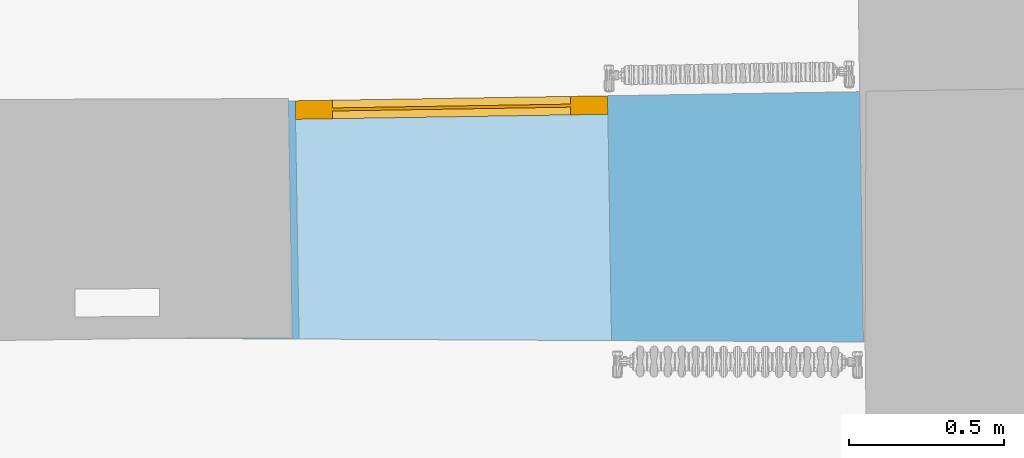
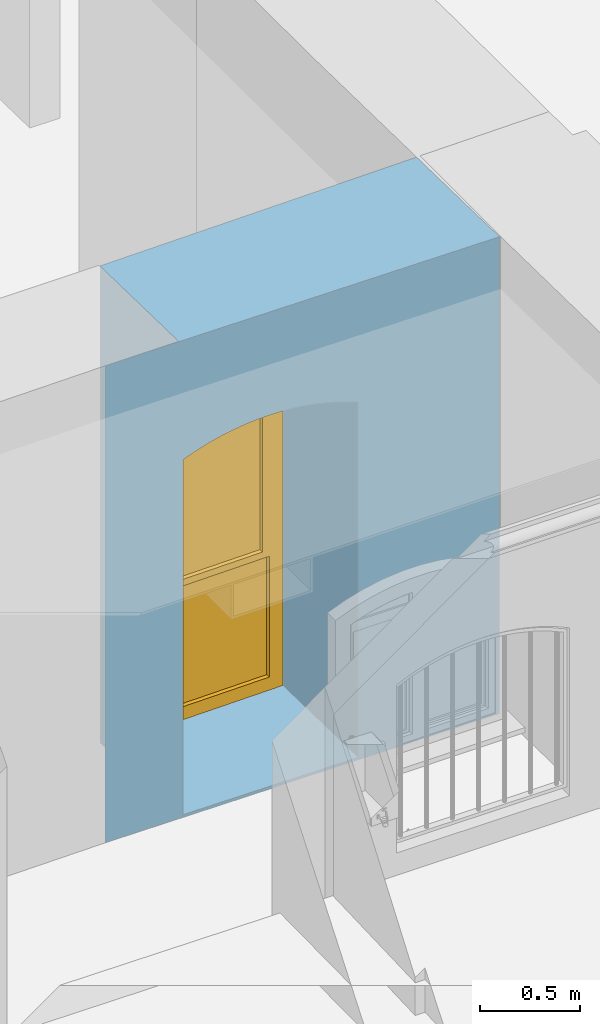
# One storey, part 95 of 133: 1 window, 1 opening, plus 1 element that does not belong to this part.
"""IFC2X3 building model written with IfcOpenShell, lengths in centimetres."""

from ifc_helpers import new_model, entity, si_unit, converted_unit, point, direction, frame, frame_2d, origin, origin_with_axes, place, context, subcontext, project, spatial, polyline, circle_curve, trimmed, segment, composite_curve, outline, extrude, faceted_brep, shape, source, transform, mapped, material, material_list, layer, layer_set, layer_usage, type_object, element, fill, save


model = new_model("IFC2X3")

# Units and contexts
model_context = context("Model", 3, precision=0.0001, world=origin(), true_north=direction((0.225632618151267, 0.974212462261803, 0.0)))
body_context = subcontext(model_context, "Body", "Model", "MODEL_VIEW")
footprint_context = subcontext(model_context, "FootPrint", "Model", "MODEL_VIEW")
profile_context = subcontext(model_context, "Profile", "Model", "MODEL_VIEW")
ifc_project = project(units=[si_unit("LENGTHUNIT", "METRE", prefix="CENTI"), si_unit("AREAUNIT", "SQUARE_METRE", prefix="CENTI"), si_unit("VOLUMEUNIT", "CUBIC_METRE", prefix="CENTI"), converted_unit("PLANEANGLEUNIT", "DEGREE", entity("IfcRatioMeasure", 0.0174532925), si_unit("PLANEANGLEUNIT", "RADIAN"), dimensions=[0, 0, 0, 0, 0, 0, 0])], contexts=[model_context])

# Site, building, storey
site_placement = place(None, origin_with_axes())
site = spatial("IfcSite", under=ifc_project, at=site_placement, Name="Default Site", CompositionType="ELEMENT")
building_placement = place(site_placement, origin_with_axes())
building = spatial("IfcBuilding", under=site, at=building_placement, Name="Default Building", CompositionType="ELEMENT")
storey_placement = place(building_placement, frame((0.0, 0.0, -291.400371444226), z_axis=(0.0, 0.0, 1.0), x_axis=(1.0, 0.0, 0.0)))
storey = spatial("IfcBuildingStorey", under=building, at=storey_placement, Name="Rez-de-Jardin", CompositionType="ELEMENT", Elevation=-291.400371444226)

# Wall, opening, window
ifc_material_1 = material(Name="<aucun>")
ifc_layer = layer(ifc_material_1, 77.0)
ifc_layer_set = layer_set([ifc_layer], Name="default")
ifc_layer_usage = layer_usage(ifc_layer_set, "AXIS2", "POSITIVE", -38.5)
wall_type = type_object("IfcWallType", Name="default 770", PredefinedType="NOTDEFINED", material=ifc_layer_set)
wall_placement = place(storey_placement, frame((47.5231606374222, -712.71886798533, -1.94511073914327e-11), z_axis=(0.0, 0.0, 1.0), x_axis=(0.999869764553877, 0.0161385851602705, 0.0)))
wall = element("IfcWallStandardCase", 1, at=wall_placement, inside=storey, type_object=wall_type, material=ifc_layer_usage, Name="Enveloppe 68570", context=body_context, shape_type="SweptSolid", body=[
    extrude(outline(polyline([(-42.5850705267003, -37.5957474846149), (184.643338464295, -42.4207215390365), (184.738052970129, 38.5000000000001), (1.58761892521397e-12, 38.5000000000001), (1.55986334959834e-12, -38.1393536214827), (-42.5850705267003, -37.5957474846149)])), frame((0.0, 0.0, 8.88178419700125e-14), z_axis=(0.0, 0.0, 1.0), x_axis=(1.0, 0.0, 0.0)), (0.0, 0.0, 1.0), 291.413221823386),
])
opening_placement = place(wall_placement, frame((2.19796612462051, 0.0, 1.60307776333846), z_axis=(0.0, 0.0, 1.0), x_axis=(-1.0, -3.81639164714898e-17, 0.0)))
cartesian_point_1 = entity("IfcCartesianPoint", [-1.11022302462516e-14, -8.88178419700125e-14, 217.0])
cartesian_point_2 = entity("IfcCartesianPoint", [-101.0, -8.88178419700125e-14, 217.0])
cartesian_point_3 = entity("IfcCartesianPoint", [-101.0, -38.5000000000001])
opening = element("IfcOpeningElement", 2, at=opening_placement, cuts=wall, Name="4294966478_12", ObjectType="Opening", shapes=[
    shape(body_context, "Body", "SweptSolid", [extrude(outline(composite_curve([segment(polyline([(1.11022302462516e-14, 217.0), (0.0, 4.44089209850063e-14), (101.0, 4.44089209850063e-14), (101.0, 217.0)]), True, "CONTINUOUS"), segment(trimmed(circle_curve(frame_2d((50.5, 94.4875000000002), x_axis=(1.0, 0.0)), 132.5125), [point((101.0, 217.0))], [point((1.11022302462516e-14, 217.0))], True, "CARTESIAN"), True, "CONTINUOUS")], self_intersect=False)), frame((0.0, -48.5000000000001, 0.0), z_axis=(0.0, 1.0, 0.0), x_axis=(-1.0, 0.0, 0.0)), (0.0, 0.0, 1.0), 100.922167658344)]),
    shape(profile_context, "Profile", "GeometricCurveSet", [entity("IfcGeometricCurveSet", [entity("IfcCompositeCurve", [entity("IfcCompositeCurveSegment", "CONTINUOUS", True, entity("IfcPolyline", [cartesian_point_1, entity("IfcCartesianPoint", [0.0, -8.88178419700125e-14, 4.44089209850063e-14]), entity("IfcCartesianPoint", [-101.0, -8.88178419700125e-14, 4.44089209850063e-14]), cartesian_point_2])), entity("IfcCompositeCurveSegment", "CONTINUOUS", True, entity("IfcTrimmedCurve", entity("IfcCircle", entity("IfcAxis2Placement3D", entity("IfcCartesianPoint", [-50.5, -8.88178419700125e-14, 94.4875000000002]), entity("IfcDirection", [0.0, 1.0, 0.0]), entity("IfcDirection", [1.0, 0.0, 0.0])), 132.5125), [cartesian_point_2], [cartesian_point_1], True, "CARTESIAN"))], False)])]),
    shape(footprint_context, "FootPrint", "GeometricCurveSet", [entity("IfcGeometricCurveSet", [entity("IfcPolyline", [cartesian_point_3, entity("IfcCartesianPoint", [-5.55111512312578e-15, -38.5000000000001]), entity("IfcCartesianPoint", [-1.11022302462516e-14, 38.5466716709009]), entity("IfcCartesianPoint", [-101.0, 40.6913083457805]), cartesian_point_3])])]),
])
ifc_material_2 = material(Name="Transparent")
ifc_material_3 = material(Name="Blanc trafic")
ifc_material_4 = material(Name="Rouge brillant")
ifc_material_list = material_list([ifc_material_2, ifc_material_3, ifc_material_4])
window_style = type_object("IfcWindowStyle", Name="Imposte fixe+1 imposte bas + arc  haut", ConstructionType="NOTDEFINED", OperationType="NOTDEFINED", ParameterTakesPrecedence=False, Sizeable=False, material=ifc_material_list)
shared_shape = source(origin_with_axes(), body_context, "Body", "Brep", [
    faceted_brep([(-46.5000003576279, 214.178395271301, -2.99999993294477), (-46.5000003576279, 214.178395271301, 0.0), (-46.5000003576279, 3.99999991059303, 0.0), (-46.5000003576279, 3.99999991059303, -2.99999993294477), (-50.4999995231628, 217.000007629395, 0.0), (-50.4999995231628, 0.0, 0.0), (-50.4999995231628, 217.000007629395, -2.99999993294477), (-50.4999995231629, 5.11214587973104e-30, -2.99999993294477), (-50.4999995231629, 5.11214587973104e-30, 0.0), (-50.4999995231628, 0.0, -2.99999993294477), (46.5000003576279, 3.99999991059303, 0.0), (46.5000003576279, 3.99999991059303, -2.99999993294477), (50.4999995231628, 0.0, 0.0), (50.4999995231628, 0.0, -2.99999993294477), (46.5000003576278, 214.178395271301, 0.0), (46.5000003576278, 214.178395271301, -2.99999993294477), (50.4999995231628, 217.000007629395, 0.0), (46.5000003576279, 214.178395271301, 0.0), (50.4999995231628, 217.000007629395, -2.99999993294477), (46.5000003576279, 214.178395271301, -2.99999993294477), (37.1453869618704, 217.509680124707, 0.0), (37.1453869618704, 217.509680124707, -2.99999993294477), (38.3029758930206, 221.343493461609, 0.0), (37.1453851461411, 217.50967502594, 0.0), (38.3029802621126, 221.343505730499, -2.99999993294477), (38.3029802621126, 221.343505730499, 0.0), (37.1453851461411, 217.50967502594, -2.99999993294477), (38.3029758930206, 221.343493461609, -2.99999993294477), (24.9623700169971, 220.547467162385, 0.0), (24.9623700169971, 220.547467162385, -2.99999993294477), (25.7402896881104, 224.475955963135, 0.0), (24.9623686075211, 220.547461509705, 0.0), (25.7402895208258, 224.475955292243, -2.99999993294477), (25.7402895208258, 224.475955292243, 0.0), (24.9623686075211, 220.547461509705, -2.99999993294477), (25.7402896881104, 224.475955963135, -2.99999993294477), (12.5410480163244, 222.381815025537, 0.0), (12.5410480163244, 222.381815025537, -2.99999993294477), (12.9318714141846, 226.367473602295, 0.0), (12.5410467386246, 222.381806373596, 0.0), (12.9318716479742, 226.367475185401, -2.99999993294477), (12.9318716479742, 226.367475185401, 0.0), (12.5410467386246, 222.381806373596, -2.99999993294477), (12.9318714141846, 226.367473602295, -2.99999993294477), (-4.41803589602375e-10, 222.995209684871, 0.0), (-4.41803589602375e-10, 222.995209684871, -2.99999993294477), (2.44249065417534e-13, 226.999998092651, 0.0), (2.27465615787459e-13, 222.995209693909, 0.0), (-2.58547340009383e-07, 226.999992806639, -2.99999993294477), (-2.58547340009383e-07, 226.999992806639, 0.0), (2.27465615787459e-13, 222.995209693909, -2.99999993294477), (2.44249065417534e-13, 226.999998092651, -2.99999993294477), (-12.5410467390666, 222.381806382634, 0.0), (-12.5410467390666, 222.381806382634, -2.99999993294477), (-12.9318714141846, 226.367473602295, 0.0), (-12.5410467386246, 222.381806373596, 0.0), (-12.9318716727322, 226.367478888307, -2.99999993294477), (-12.9318716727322, 226.367478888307, 0.0), (-12.5410467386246, 222.381806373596, -2.99999993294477), (-12.9318714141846, 226.367473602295, -2.99999993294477), (-24.9623673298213, 220.547452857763, 0.0), (-24.9623673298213, 220.547452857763, -2.99999993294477), (-25.7402896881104, 224.475955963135, 0.0), (-24.9623686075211, 220.547461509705, 0.0), (-25.7402894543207, 224.475954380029, -2.99999993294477), (-25.7402894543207, 224.475954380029, 0.0), (-24.9623686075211, 220.547461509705, -2.99999993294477), (-25.7402896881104, 224.475955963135, -2.99999993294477), (-37.145383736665, 217.509669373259, 0.0), (-37.145383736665, 217.509669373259, -2.99999993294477), (-38.3029758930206, 221.343493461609, 0.0), (-37.1453851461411, 217.50967502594, 0.0), (-38.3029760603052, 221.343494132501, -2.99999993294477), (-38.3029760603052, 221.343494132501, 0.0), (-37.1453851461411, 217.50967502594, -2.99999993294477), (-38.3029758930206, 221.343493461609, -2.99999993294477), (-46.4999985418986, 214.178390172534, 0.0), (-46.4999985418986, 214.178390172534, -2.99999993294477), (-50.4999951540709, 216.999995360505, -2.99999993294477), (-50.4999951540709, 216.999995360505, 0.0)], [[[0, 1, 2, 3]], [[1, 4, 5, 2]], [[4, 6, 7, 8]], [[6, 0, 3, 9]], [[3, 2, 10, 11]], [[2, 5, 12, 10]], [[5, 9, 13, 12]], [[9, 3, 11, 13]], [[11, 10, 14, 15]], [[10, 12, 16, 17]], [[12, 13, 18, 16]], [[13, 11, 19, 18]], [[19, 17, 20, 21]], [[17, 16, 22, 23]], [[16, 18, 24, 25]], [[18, 19, 26, 27]], [[26, 23, 28, 29]], [[23, 22, 30, 31]], [[22, 27, 32, 33]], [[27, 26, 34, 35]], [[34, 31, 36, 37]], [[31, 30, 38, 39]], [[30, 35, 40, 41]], [[35, 34, 42, 43]], [[42, 39, 44, 45]], [[39, 38, 46, 47]], [[38, 43, 48, 49]], [[43, 42, 50, 51]], [[50, 47, 52, 53]], [[47, 46, 54, 55]], [[46, 51, 56, 57]], [[51, 50, 58, 59]], [[58, 55, 60, 61]], [[55, 54, 62, 63]], [[54, 59, 64, 65]], [[59, 58, 66, 67]], [[66, 63, 68, 69]], [[63, 62, 70, 71]], [[62, 67, 72, 73]], [[67, 66, 74, 75]], [[74, 71, 76, 77]], [[71, 70, 4, 1]], [[70, 75, 78, 79]], [[75, 74, 0, 6]]]),
    faceted_brep([(-46.5000003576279, 214.178395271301, 0.0), (-46.5000003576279, 214.178395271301, 2.99999993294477), (-46.5000003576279, 3.99999991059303, 2.99999993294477), (-46.5000003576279, 3.99999991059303, 0.0), (-50.4999995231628, 217.000007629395, 2.99999993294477), (-50.4999995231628, 0.0, 2.99999993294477), (-50.4999995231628, 217.000007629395, 0.0), (-50.4999995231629, 5.11214587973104e-30, 0.0), (-50.4999995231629, 5.11214587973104e-30, 2.99999993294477), (-50.4999995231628, 0.0, 0.0), (46.5000003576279, 3.99999991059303, 2.99999993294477), (46.5000003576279, 3.99999991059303, 0.0), (50.4999995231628, 0.0, 2.99999993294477), (50.4999995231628, 0.0, 0.0), (46.5000003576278, 214.178395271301, 2.99999993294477), (46.5000003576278, 214.178395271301, 0.0), (50.4999995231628, 217.000007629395, 2.99999993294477), (46.5000003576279, 214.178395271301, 2.99999993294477), (50.4999995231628, 217.000007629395, 0.0), (46.5000003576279, 214.178395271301, 0.0), (37.1453869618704, 217.509680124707, 2.99999993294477), (37.1453869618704, 217.509680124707, 0.0), (38.3029758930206, 221.343493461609, 2.99999993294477), (37.1453851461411, 217.50967502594, 2.99999993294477), (38.3029802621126, 221.343505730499, 0.0), (38.3029802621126, 221.343505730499, 2.99999993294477), (37.1453851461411, 217.50967502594, 0.0), (38.3029758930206, 221.343493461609, 0.0), (24.9623700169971, 220.547467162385, 2.99999993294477), (24.9623700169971, 220.547467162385, 0.0), (25.7402896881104, 224.475955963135, 2.99999993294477), (24.9623686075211, 220.547461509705, 2.99999993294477), (25.7402895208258, 224.475955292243, 0.0), (25.7402895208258, 224.475955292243, 2.99999993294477), (24.9623686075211, 220.547461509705, 0.0), (25.7402896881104, 224.475955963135, 0.0), (12.5410480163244, 222.381815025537, 2.99999993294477), (12.5410480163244, 222.381815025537, 0.0), (12.9318714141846, 226.367473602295, 2.99999993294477), (12.5410467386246, 222.381806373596, 2.99999993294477), (12.9318716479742, 226.367475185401, 0.0), (12.9318716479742, 226.367475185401, 2.99999993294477), (12.5410467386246, 222.381806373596, 0.0), (12.9318714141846, 226.367473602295, 0.0), (-4.41803589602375e-10, 222.995209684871, 2.99999993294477), (-4.41803589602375e-10, 222.995209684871, 0.0), (2.44249065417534e-13, 226.999998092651, 2.99999993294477), (2.27465615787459e-13, 222.995209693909, 2.99999993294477), (-2.58547340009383e-07, 226.999992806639, 0.0), (-2.58547340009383e-07, 226.999992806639, 2.99999993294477), (2.27465615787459e-13, 222.995209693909, 0.0), (2.44249065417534e-13, 226.999998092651, 0.0), (-12.5410467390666, 222.381806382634, 2.99999993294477), (-12.5410467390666, 222.381806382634, 0.0), (-12.9318714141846, 226.367473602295, 2.99999993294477), (-12.5410467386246, 222.381806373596, 2.99999993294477), (-12.9318716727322, 226.367478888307, 0.0), (-12.9318716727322, 226.367478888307, 2.99999993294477), (-12.5410467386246, 222.381806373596, 0.0), (-12.9318714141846, 226.367473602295, 0.0), (-24.9623673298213, 220.547452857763, 2.99999993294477), (-24.9623673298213, 220.547452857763, 0.0), (-25.7402896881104, 224.475955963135, 2.99999993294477), (-24.9623686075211, 220.547461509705, 2.99999993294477), (-25.7402894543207, 224.475954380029, 0.0), (-25.7402894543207, 224.475954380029, 2.99999993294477), (-24.9623686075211, 220.547461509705, 0.0), (-25.7402896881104, 224.475955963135, 0.0), (-37.145383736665, 217.509669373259, 2.99999993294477), (-37.145383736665, 217.509669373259, 0.0), (-38.3029758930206, 221.343493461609, 2.99999993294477), (-37.1453851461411, 217.50967502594, 2.99999993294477), (-38.3029760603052, 221.343494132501, 0.0), (-38.3029760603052, 221.343494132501, 2.99999993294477), (-37.1453851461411, 217.50967502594, 0.0), (-38.3029758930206, 221.343493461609, 0.0), (-46.4999985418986, 214.178390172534, 2.99999993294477), (-46.4999985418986, 214.178390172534, 0.0), (-50.4999951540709, 216.999995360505, 0.0), (-50.4999951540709, 216.999995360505, 2.99999993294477)], [[[0, 1, 2, 3]], [[1, 4, 5, 2]], [[4, 6, 7, 8]], [[6, 0, 3, 9]], [[3, 2, 10, 11]], [[2, 5, 12, 10]], [[5, 9, 13, 12]], [[9, 3, 11, 13]], [[11, 10, 14, 15]], [[10, 12, 16, 17]], [[12, 13, 18, 16]], [[13, 11, 19, 18]], [[19, 17, 20, 21]], [[17, 16, 22, 23]], [[16, 18, 24, 25]], [[18, 19, 26, 27]], [[26, 23, 28, 29]], [[23, 22, 30, 31]], [[22, 27, 32, 33]], [[27, 26, 34, 35]], [[34, 31, 36, 37]], [[31, 30, 38, 39]], [[30, 35, 40, 41]], [[35, 34, 42, 43]], [[42, 39, 44, 45]], [[39, 38, 46, 47]], [[38, 43, 48, 49]], [[43, 42, 50, 51]], [[50, 47, 52, 53]], [[47, 46, 54, 55]], [[46, 51, 56, 57]], [[51, 50, 58, 59]], [[58, 55, 60, 61]], [[55, 54, 62, 63]], [[54, 59, 64, 65]], [[59, 58, 66, 67]], [[66, 63, 68, 69]], [[63, 62, 70, 71]], [[62, 67, 72, 73]], [[67, 66, 74, 75]], [[74, 71, 76, 77]], [[71, 70, 4, 1]], [[70, 75, 78, 79]], [[75, 74, 0, 6]]]),
    faceted_brep([(-42.5000011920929, 211.416053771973, -2.99999993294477), (-42.5000011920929, 211.416053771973, 2.99999993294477), (-42.5000011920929, 7.99999982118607, 2.99999993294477), (-42.5000011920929, 7.99999982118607, -2.99999993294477), (-46.5000003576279, 214.29238319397, 2.99999993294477), (-46.5000003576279, 3.99999991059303, 2.99999993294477), (-46.5000003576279, 214.29238319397, -2.99999993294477), (-46.5000003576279, 3.99999991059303, -2.99999993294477), (42.5000011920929, 7.99999982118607, 2.99999993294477), (42.5000011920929, 7.99999982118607, -2.99999993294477), (46.5000003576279, 3.99999991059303, 2.99999993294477), (46.5000003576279, 3.99999991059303, -2.99999993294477), (42.5000011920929, 211.416053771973, 2.99999993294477), (42.5000011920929, 211.416053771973, -2.99999993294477), (46.5000003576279, 214.29238319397, 2.99999993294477), (46.5000003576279, 214.29238319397, -2.99999993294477), (34.1302055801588, 214.226489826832, 2.99999993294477), (34.1302055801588, 214.226489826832, -2.99999993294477), (35.2278590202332, 218.077397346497, 2.99999993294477), (34.1302037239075, 214.226484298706, 2.99999993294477), (35.2278531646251, 218.077379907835, -2.99999993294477), (35.2278531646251, 218.077379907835, 2.99999993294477), (34.1302037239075, 214.226484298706, -2.99999993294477), (35.2278590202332, 218.077397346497, -2.99999993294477), (22.9171016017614, 216.868469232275, 2.99999993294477), (22.9171016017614, 216.868469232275, -2.99999993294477), (23.6541345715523, 220.804333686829, 2.99999993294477), (22.9171022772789, 216.868472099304, 2.99999993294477), (23.6541383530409, 220.804349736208, -2.99999993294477), (23.6541383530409, 220.804349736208, 2.99999993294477), (22.9171022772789, 216.868472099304, -2.99999993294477), (23.6541345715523, 220.804333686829, -2.99999993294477), (11.5078114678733, 218.462764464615, 2.99999993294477), (11.5078114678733, 218.462764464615, -2.99999993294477), (11.8779100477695, 222.449898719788, 2.99999993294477), (11.507809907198, 218.462753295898, 2.99999993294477), (11.8779102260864, 222.449899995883, -2.99999993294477), (11.8779102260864, 222.449899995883, 2.99999993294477), (11.507809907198, 218.462753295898, -2.99999993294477), (11.8779100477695, 222.449898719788, -2.99999993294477), (-4.25131216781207e-07, 218.995705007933, 2.99999993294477), (-4.25131216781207e-07, 218.995705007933, -2.99999993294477), (1.27675647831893e-13, 223.000001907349, 2.99999993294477), (1.22124532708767e-13, 218.995714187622, 2.99999993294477), (-5.24665264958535e-07, 222.999990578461, -2.99999993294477), (-5.24665264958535e-07, 222.999990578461, 2.99999993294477), (1.22124532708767e-13, 218.995714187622, -2.99999993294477), (1.27675647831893e-13, 223.000001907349, -2.99999993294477), (-11.5078103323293, 218.462762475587, 2.99999993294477), (-11.5078103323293, 218.462762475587, -2.99999993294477), (-11.8779100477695, 222.449898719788, 2.99999993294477), (-11.507809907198, 218.462753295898, 2.99999993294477), (-11.8779105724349, 222.449910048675, -2.99999993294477), (-11.8779105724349, 222.449910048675, 2.99999993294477), (-11.507809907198, 218.462753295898, -2.99999993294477), (-11.8779100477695, 222.449898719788, -2.99999993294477), (-22.9171007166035, 216.868460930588, 2.99999993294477), (-22.9171007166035, 216.868460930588, -2.99999993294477), (-23.6541345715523, 220.804333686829, 2.99999993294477), (-22.9171022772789, 216.868472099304, 2.99999993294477), (-23.6541343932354, 220.804332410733, -2.99999993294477), (-23.6541343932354, 220.804332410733, 2.99999993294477), (-22.9171022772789, 216.868472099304, -2.99999993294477), (-23.6541345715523, 220.804333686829, -2.99999993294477), (-34.130204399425, 214.226487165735, 2.99999993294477), (-34.130204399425, 214.226487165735, -2.99999993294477), (-35.2278590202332, 218.077397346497, 2.99999993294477), (-34.1302037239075, 214.226484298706, 2.99999993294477), (-35.2278552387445, 218.077381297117, -2.99999993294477), (-35.2278552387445, 218.077381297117, 2.99999993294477), (-34.1302037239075, 214.226484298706, -2.99999993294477), (-35.2278590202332, 218.077397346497, -2.99999993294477), (-42.4999993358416, 211.416048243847, 2.99999993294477), (-42.4999993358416, 211.416048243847, -2.99999993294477), (-46.5000062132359, 214.292400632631, -2.99999993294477), (-46.5000062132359, 214.292400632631, 2.99999993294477)], [[[0, 1, 2, 3]], [[1, 4, 5, 2]], [[4, 6, 7, 5]], [[6, 0, 3, 7]], [[3, 2, 8, 9]], [[2, 5, 10, 8]], [[5, 7, 11, 10]], [[7, 3, 9, 11]], [[9, 8, 12, 13]], [[8, 10, 14, 12]], [[10, 11, 15, 14]], [[11, 9, 13, 15]], [[13, 12, 16, 17]], [[12, 14, 18, 19]], [[14, 15, 20, 21]], [[15, 13, 22, 23]], [[22, 19, 24, 25]], [[19, 18, 26, 27]], [[18, 23, 28, 29]], [[23, 22, 30, 31]], [[30, 27, 32, 33]], [[27, 26, 34, 35]], [[26, 31, 36, 37]], [[31, 30, 38, 39]], [[38, 35, 40, 41]], [[35, 34, 42, 43]], [[34, 39, 44, 45]], [[39, 38, 46, 47]], [[46, 43, 48, 49]], [[43, 42, 50, 51]], [[42, 47, 52, 53]], [[47, 46, 54, 55]], [[54, 51, 56, 57]], [[51, 50, 58, 59]], [[50, 55, 60, 61]], [[55, 54, 62, 63]], [[62, 59, 64, 65]], [[59, 58, 66, 67]], [[58, 63, 68, 69]], [[63, 62, 70, 71]], [[70, 67, 72, 73]], [[67, 66, 4, 1]], [[66, 71, 74, 75]], [[71, 70, 0, 6]]]),
    faceted_brep([(-38.4999990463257, 208.568096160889, -2.99999993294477), (-38.4999990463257, 208.568096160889, 2.99999993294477), (-38.4999990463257, 85.7960522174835, 2.99999993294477), (-38.4999990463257, 85.7960522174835, -2.99999993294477), (-42.5000011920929, 211.522173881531, 2.99999993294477), (-42.5000011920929, 81.7960560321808, 2.99999993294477), (-42.5000011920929, 211.522173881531, -2.99999993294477), (-42.5000011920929, 81.7960560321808, -2.99999993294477), (38.4999990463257, 85.7960522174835, 2.99999993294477), (38.4999990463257, 85.7960522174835, -2.99999993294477), (42.5000011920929, 81.7960560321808, 2.99999993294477), (42.5000011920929, 81.7960560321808, -2.99999993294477), (38.4999990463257, 208.568096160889, 2.99999993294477), (38.4999990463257, 208.568096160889, -2.99999993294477), (42.5000011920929, 211.522173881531, 2.99999993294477), (42.5000011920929, 211.522173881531, -2.99999993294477), (29.6749740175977, 211.284184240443, 2.99999993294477), (29.6749740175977, 211.284184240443, -2.99999993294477), (30.6611955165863, 215.16580581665, 2.99999993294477), (29.6749740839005, 211.284184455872, 2.99999993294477), (30.6611985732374, 215.165815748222, -2.99999993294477), (30.6611985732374, 215.165815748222, 2.99999993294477), (29.6749740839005, 211.284184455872, -2.99999993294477), (30.6611955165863, 215.16580581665, -2.99999993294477), (17.9232807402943, 213.654716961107, 2.99999993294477), (17.9232807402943, 213.654716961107, -2.99999993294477), (18.5189425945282, 217.615127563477, 2.99999993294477), (17.923279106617, 213.654708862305, 2.99999993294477), (18.5189413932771, 217.615121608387, -2.99999993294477), (18.5189413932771, 217.615121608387, 2.99999993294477), (17.923279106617, 213.654708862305, -2.99999993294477), (18.5189425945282, 217.615127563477, -2.99999993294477), (5.99420048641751, 214.845869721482, 2.99999993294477), (5.99420048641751, 214.845869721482, -2.99999993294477), (6.19341246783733, 218.845868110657, 2.99999993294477), (5.99420070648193, 214.845871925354, 2.99999993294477), (6.19341319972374, 218.845875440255, -2.99999993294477), (6.19341319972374, 218.845875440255, 2.99999993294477), (5.99420070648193, 214.845871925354, -2.99999993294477), (6.19341246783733, 218.845868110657, -2.99999993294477), (-5.99420070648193, 214.845871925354, 2.99999993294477), (-5.99420070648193, 214.845871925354, -2.99999993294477), (-6.19341246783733, 218.845868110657, 2.99999993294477), (-6.19341246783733, 218.845868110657, -2.99999993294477), (-17.9232793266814, 213.654711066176, 2.99999993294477), (-17.9232793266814, 213.654711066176, -2.99999993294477), (-18.5189425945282, 217.615127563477, 2.99999993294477), (-17.923279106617, 213.654708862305, 2.99999993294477), (-18.5189418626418, 217.615120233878, -2.99999993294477), (-18.5189418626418, 217.615120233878, 2.99999993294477), (-17.923279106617, 213.654708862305, -2.99999993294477), (-18.5189425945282, 217.615127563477, -2.99999993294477), (-29.6749724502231, 211.284176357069, 2.99999993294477), (-29.6749724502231, 211.284176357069, -2.99999993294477), (-30.6611955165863, 215.16580581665, 2.99999993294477), (-29.6749740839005, 211.284184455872, 2.99999993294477), (-30.6611967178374, 215.16581177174, -2.99999993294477), (-30.6611967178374, 215.16581177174, 2.99999993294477), (-29.6749740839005, 211.284184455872, -2.99999993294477), (-30.6611955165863, 215.16580581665, -2.99999993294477), (-38.4999991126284, 208.568096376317, 2.99999993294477), (-38.4999991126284, 208.568096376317, -2.99999993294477), (-42.4999981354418, 211.52216394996, -2.99999993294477), (-42.4999981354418, 211.52216394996, 2.99999993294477)], [[[0, 1, 2, 3]], [[1, 4, 5, 2]], [[4, 6, 7, 5]], [[6, 0, 3, 7]], [[3, 2, 8, 9]], [[2, 5, 10, 8]], [[5, 7, 11, 10]], [[7, 3, 9, 11]], [[9, 8, 12, 13]], [[8, 10, 14, 12]], [[10, 11, 15, 14]], [[11, 9, 13, 15]], [[13, 12, 16, 17]], [[12, 14, 18, 19]], [[14, 15, 20, 21]], [[15, 13, 22, 23]], [[22, 19, 24, 25]], [[19, 18, 26, 27]], [[18, 23, 28, 29]], [[23, 22, 30, 31]], [[30, 27, 32, 33]], [[27, 26, 34, 35]], [[26, 31, 36, 37]], [[31, 30, 38, 39]], [[38, 35, 40, 41]], [[35, 34, 42, 40]], [[34, 39, 43, 42]], [[39, 38, 41, 43]], [[41, 40, 44, 45]], [[40, 42, 46, 47]], [[42, 43, 48, 49]], [[43, 41, 50, 51]], [[50, 47, 52, 53]], [[47, 46, 54, 55]], [[46, 51, 56, 57]], [[51, 50, 58, 59]], [[58, 55, 60, 61]], [[55, 54, 4, 1]], [[54, 59, 62, 63]], [[59, 58, 0, 6]]]),
    faceted_brep([(-27.7396768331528, 211.763978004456, -0.499999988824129), (-16.7400911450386, 213.831663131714, -0.499999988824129), (-5.59611953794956, 214.869999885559, -0.499999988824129), (5.59611953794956, 214.869999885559, -0.499999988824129), (16.7400911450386, 213.831663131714, -0.499999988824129), (27.7396768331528, 211.763978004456, -0.499999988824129), (38.4999990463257, 208.684754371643, -0.499999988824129), (38.4999990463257, 85.7960522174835, -0.499999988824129), (-38.4999990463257, 85.7960522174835, -0.499999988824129), (-38.4999990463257, 208.684754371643, -0.499999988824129), (-38.4999990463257, 208.684754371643, 0.499999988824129), (-38.4999990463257, 85.7960522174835, 0.499999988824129), (38.4999990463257, 85.7960522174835, 0.499999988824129), (38.4999990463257, 208.684754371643, 0.499999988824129), (27.7396768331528, 211.763978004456, 0.499999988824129), (16.7400911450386, 213.831663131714, 0.499999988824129), (5.59611953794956, 214.869999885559, 0.499999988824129), (-5.59611953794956, 214.869999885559, 0.499999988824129), (-16.7400911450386, 213.831663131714, 0.499999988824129), (-27.7396768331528, 211.763978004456, 0.499999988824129), (27.7396777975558, 211.76398137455, -0.499999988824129), (27.7396777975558, 211.76398137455, 0.499999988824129), (16.7400926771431, 213.831671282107, -0.499999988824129), (16.7400926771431, 213.831671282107, 0.499999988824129), (5.59611841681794, 214.869987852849, -0.499999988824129), (5.59611841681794, 214.869987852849, 0.499999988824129), (-16.7400922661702, 213.831675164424, -0.499999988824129), (-16.7400922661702, 213.831675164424, 0.499999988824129), (-27.7396753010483, 211.763969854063, -0.499999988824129), (-27.7396753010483, 211.763969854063, 0.499999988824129), (-38.4999980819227, 208.684751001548, -0.499999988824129), (-38.4999980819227, 208.684751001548, 0.499999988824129)], [[[0, 1, 2, 3, 4, 5, 6, 7, 8, 9]], [[10, 11, 12, 13, 14, 15, 16, 17, 18, 19]], [[9, 8, 11, 10]], [[8, 7, 12, 11]], [[7, 6, 13, 12]], [[6, 20, 21, 13]], [[5, 22, 23, 14]], [[4, 24, 25, 15]], [[3, 2, 17, 16]], [[2, 26, 27, 17]], [[1, 28, 29, 18]], [[0, 30, 31, 19]]]),
    faceted_brep([(42.5000011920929, 81.7960560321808, -0.499999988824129), (42.5000011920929, 7.99999982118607, -0.499999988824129), (-42.5000011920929, 7.99999982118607, -0.499999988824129), (-42.5000011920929, 81.7960560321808, -0.499999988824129), (-42.5000011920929, 81.7960560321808, 0.499999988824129), (-42.5000011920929, 7.99999982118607, 0.499999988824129), (42.5000011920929, 7.99999982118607, 0.499999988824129), (42.5000011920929, 81.7960560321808, 0.499999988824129)], [[[0, 1, 2, 3]], [[4, 5, 6, 7]], [[3, 2, 5, 4]], [[2, 1, 6, 5]], [[1, 0, 7, 6]], [[0, 3, 4, 7]]]),
])
window_placement = place(opening_placement, frame((-101.0, -38.5000000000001, 0.0), z_axis=(0.0, 0.0, 1.0), x_axis=(1.0, 0.0, 0.0)))
window = element("IfcWindow", 3, at=window_placement, inside=storey, type_object=window_style, material=ifc_material_list, Name="Fenêtre 74098", OverallHeight=227.0, OverallWidth=101.0, context=body_context, shape_type="MappedRepresentation", body=[
    mapped(shared_shape, transform((50.5, 3.00000000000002, 0.0), x_axis=(-1.0, 0.0, 0.0), y_axis=(0.0, 0.0, 1.0), z_axis=(0.0, 1.0, 0.0), scale=1.0, scale2=1.0, scale3=1.0, uniform=False)),
])
fill(opening, window)

save(model, "model.ifc")
